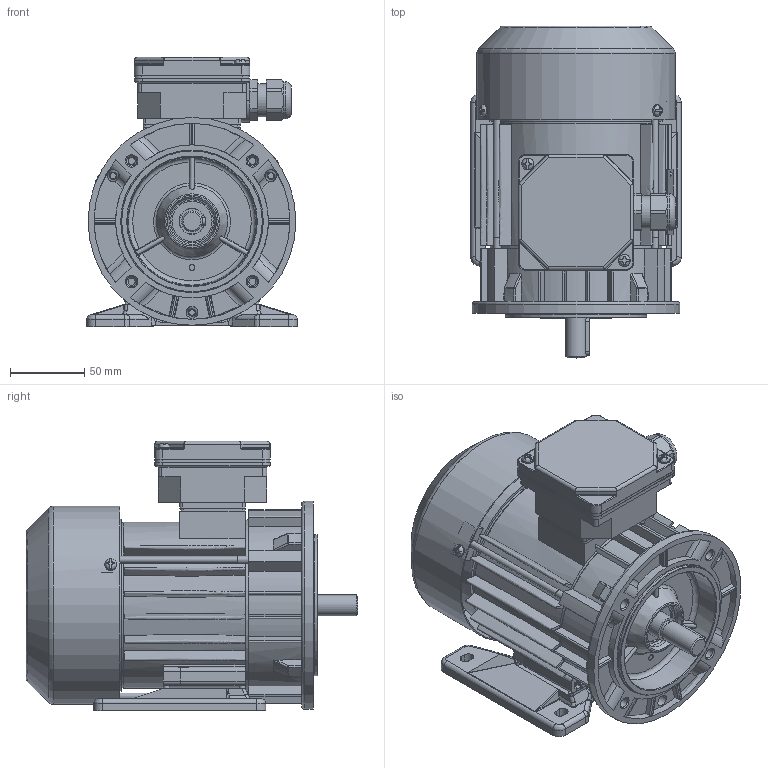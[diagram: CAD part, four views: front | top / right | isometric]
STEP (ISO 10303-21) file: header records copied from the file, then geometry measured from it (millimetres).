
FILE_DESCRIPTION( ( 'Unknown' ), '1' );
FILE_NAME( 'G:/Poczta Tk-1/STP/w.m.71/Sh71/SLh71-.A1.stp', 'Unknown', ( 'K. Szlosek' ), ( 'BESEL S.A.' ), 'PSStep 17.0.49', 'Unknown', ' ' );
FILE_SCHEMA( ( 'AUTOMOTIVE_DESIGN { 1 0 10303 214 1 1 1 1 }' ) );
Length unit declared in the file: millimetre
Products named in the file (30): skrznka zaciskowa trójfazowa ; K4-2820 Uszczelka nr 2 Sh71,80; Dławnica M20x1,5; K2-0859 Podstawa skrzynki 6-cio zaciskowej; K2-0860 Pokrywka skrzynki zaciskowej; Assem1; K3-5958 Tarcza łożyskowa P Sh71 (dla dł. A); Wpust A5x5x25; Wkręt samogwintujący M4x8; Wkręt samogwintujący M4x16; K1-1194 Kadłub z zamkami Sh71-.B; K4-4122 Osłona przewietrznika Sh71-.A; K3-3984 Przewietrznik Sh71; K4-2320 Uszczelka nr 1 Sh71,80; K3-6688 Wał Standard Sh71-A; Nitokołek A 2x6; Łożysko 6203; Śruba ściągająca E_M5x110; Tabliczka znamionowa 32x44; K1-1246 Tarcza kołnierzowa B14_1 w.m. 71; K1-0448 Łapa Sh71-.. 
Assembly tree (45 placements, depth 3):
  Assem1
    K3-5958 Tarcza łożyskowa P Sh71 (dla dł. A)
    Wpust A5x5x25
    Wkręt samogwintujący M4x8  x3
    Wkręt samogwintujący M4x16  x2
    K1-1194 Kadłub z zamkami Sh71-.B
    K4-4122 Osłona przewietrznika Sh71-.A
    K3-3984 Przewietrznik Sh71
    K4-2320 Uszczelka nr 1 Sh71,80
    K3-6688 Wał Standard Sh71-A
    Nitokołek A 2x6  x2
    Łożysko 6203  x2
    Łożysko 6203  x2
    Łożysko 6203  x2
    Łożysko 6203  x2
    Łożysko 6203  x2
    Łożysko 6203  x2
    Łożysko 6203  x2
    Łożysko 6203  x2
    Łożysko 6203  x2
    Łożysko 6203  x2
    Śruba ściągająca E_M5x110  x3
    Tabliczka znamionowa 32x44
    K1-1246 Tarcza kołnierzowa B14_1 w.m. 71
    K1-0448 Łapa Sh71-.. 
    skrznka zaciskowa trójfazowa 
      K4-2820 Uszczelka nr 2 Sh71,80
      Dławnica M20x1,5
      K2-0859 Podstawa skrzynki 6-cio zaciskowej
      K2-0860 Pokrywka skrzynki zaciskowej
Bounding box: 141.93 x 223.5 x 181.5 mm (x, y, z)
Volume: 720785.7 mm3; surface area: 436484.9 mm2
Topology: 44 solids, 60 shells, 2155 faces, 5940 edges, 3878 vertices
Faces by surface type: plane 1027, cylinder 692, cone 142, bspline 136, torus 114, sphere 44
Full cylindrical faces by diameter (mm): 2 x2, 2.4 x2, 3.7 x7, 3.8 x4, 4 x6, 4.134 x3, 4.5 x1, 4.6 x3, 4.8 x4, 5 x7, 5.5 x3, 5.8 x4, 6.8 x4, 7 x1, 8 x9, 13.6 x1, 14 x1, 15.9 x1, 16.1 x1, 16.5 x1, 16.6 x2, 17 x4, 17.4 x2, 18.376 x1, 18.38 x1, 20 x1, 22 x2, 22.3 x1, 22.5 x1, 22.7 x1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
Entity records: 90999 total; most frequent: CARTESIAN_POINT 30254, ORIENTED_EDGE 10406, DIRECTION 10027, EDGE_CURVE 5203, AXIS2_PLACEMENT_3D 3727, VERTEX_POINT 3543, LINE 2573, VECTOR 2573
